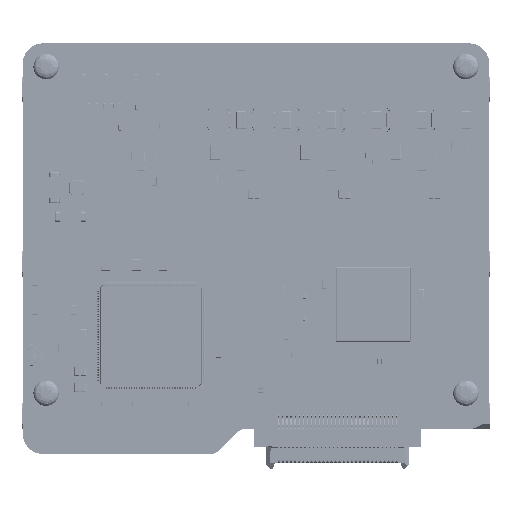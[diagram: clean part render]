
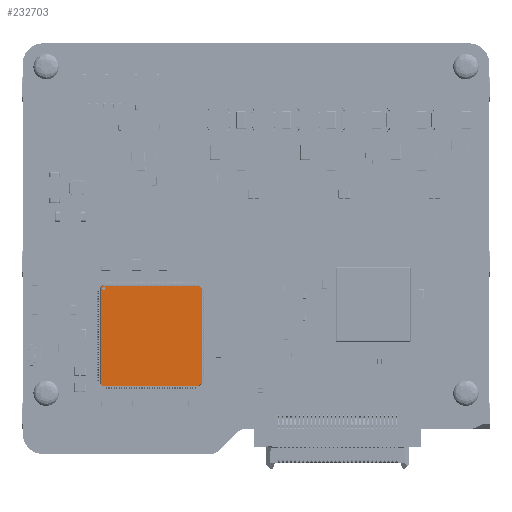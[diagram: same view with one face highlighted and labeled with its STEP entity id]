
A CAD part, top view. The second image highlights one B-rep face of the part: STEP entity #232703.
In plain terms, the highlighted planar face has unit normal (0, 0, 1).
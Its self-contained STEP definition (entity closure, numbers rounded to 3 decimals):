
#4077 = VERTEX_POINT ( 'NONE', #619305 ) ;
#10004 = CARTESIAN_POINT ( 'NONE',  ( 9.9, 0., 1.6 ) ) ;
#10186 = CARTESIAN_POINT ( 'NONE',  ( -9.9, 9.459, 1.6 ) ) ;
#14482 = LINE ( 'NONE', #457691, #216122 ) ;
#34026 = LINE ( 'NONE', #260884, #105973 ) ;
#37614 = CARTESIAN_POINT ( 'NONE',  ( 9.679, -9.679, 1.6 ) ) ;
#39298 = VECTOR ( 'NONE', #333867, 1000. ) ;
#41810 = ORIENTED_EDGE ( 'NONE', *, *, #510111, .F. ) ;
#51307 = DIRECTION ( 'NONE',  ( -0.707, -0.707, 0. ) ) ;
#52847 = VERTEX_POINT ( 'NONE', #10186 ) ;
#64019 = VERTEX_POINT ( 'NONE', #523484 ) ;
#79625 = VERTEX_POINT ( 'NONE', #374527 ) ;
#88196 = LINE ( 'NONE', #251957, #237417 ) ;
#90448 = EDGE_CURVE ( 'NONE', #719413, #297519, #568400, .T. ) ;
#103663 = ORIENTED_EDGE ( 'NONE', *, *, #177508, .F. ) ;
#105973 = VECTOR ( 'NONE', #432230, 1000. ) ;
#106829 = LINE ( 'NONE', #683680, #39298 ) ;
#125064 = VERTEX_POINT ( 'NONE', #429401 ) ;
#126863 = ORIENTED_EDGE ( 'NONE', *, *, #365867, .F. ) ;
#133793 = CIRCLE ( 'NONE', #431390, 0.3 ) ;
#146575 = CARTESIAN_POINT ( 'NONE',  ( 9.459, -9.9, 1.6 ) ) ;
#153484 = VECTOR ( 'NONE', #406652, 1000. ) ;
#168928 = EDGE_CURVE ( 'NONE', #207681, #125064, #409325, .T. ) ;
#175983 = LINE ( 'NONE', #637267, #153484 ) ;
#177508 = EDGE_CURVE ( 'NONE', #277795, #52847, #88196, .T. ) ;
#207681 = VERTEX_POINT ( 'NONE', #630648 ) ;
#216122 = VECTOR ( 'NONE', #241618, 1000. ) ;
#232703 = ADVANCED_FACE ( 'NONE', ( #702817, #416104 ), #363986, .T. ) ;
#233323 = EDGE_CURVE ( 'NONE', #125064, #207681, #133793, .T. ) ;
#237417 = VECTOR ( 'NONE', #598085, 1000. ) ;
#241618 = DIRECTION ( 'NONE',  ( -0.707, 0.707, 0. ) ) ;
#244450 = DIRECTION ( 'NONE',  ( 0., -1., 0. ) ) ;
#248684 = ORIENTED_EDGE ( 'NONE', *, *, #168928, .T. ) ;
#251957 = CARTESIAN_POINT ( 'NONE',  ( -9.9, 0., 1.6 ) ) ;
#260884 = CARTESIAN_POINT ( 'NONE',  ( 0., 9.9, 1.6 ) ) ;
#267167 = CARTESIAN_POINT ( 'NONE',  ( -9.3, 9.3, 1.6 ) ) ;
#274413 = DIRECTION ( 'NONE',  ( 0., 0., -1. ) ) ;
#277795 = VERTEX_POINT ( 'NONE', #283312 ) ;
#283312 = CARTESIAN_POINT ( 'NONE',  ( -9.9, -9.459, 1.6 ) ) ;
#297519 = VERTEX_POINT ( 'NONE', #146575 ) ;
#304035 = EDGE_CURVE ( 'NONE', #4077, #64019, #175983, .T. ) ;
#328143 = EDGE_LOOP ( 'NONE', ( #248684, #648715 ) ) ;
#333867 = DIRECTION ( 'NONE',  ( -1., 0., 0. ) ) ;
#345726 = ORIENTED_EDGE ( 'NONE', *, *, #90448, .F. ) ;
#360346 = DIRECTION ( 'NONE',  ( 0., 0., 1. ) ) ;
#363986 = PLANE ( 'NONE',  #634235 ) ;
#365867 = EDGE_CURVE ( 'NONE', #52847, #651418, #733353, .T. ) ;
#372249 = ORIENTED_EDGE ( 'NONE', *, *, #702789, .F. ) ;
#374527 = CARTESIAN_POINT ( 'NONE',  ( -9.459, -9.9, 1.6 ) ) ;
#387293 = EDGE_CURVE ( 'NONE', #651418, #4077, #34026, .T. ) ;
#406652 = DIRECTION ( 'NONE',  ( 0.707, -0.707, 0. ) ) ;
#409109 = ORIENTED_EDGE ( 'NONE', *, *, #304035, .F. ) ;
#409325 = CIRCLE ( 'NONE', #563340, 0.3 ) ;
#416104 = FACE_BOUND ( 'NONE', #328143, .T. ) ;
#418743 = VECTOR ( 'NONE', #625040, 1000. ) ;
#429401 = CARTESIAN_POINT ( 'NONE',  ( -9.6, 9.3, 1.6 ) ) ;
#431390 = AXIS2_PLACEMENT_3D ( 'NONE', #678104, #734098, #723150 ) ;
#432230 = DIRECTION ( 'NONE',  ( 1., 0., 0. ) ) ;
#457691 = CARTESIAN_POINT ( 'NONE',  ( -9.679, -9.679, 1.6 ) ) ;
#465367 = EDGE_LOOP ( 'NONE', ( #372249, #409109, #653935, #126863, #103663, #41810, #579045, #345726 ) ) ;
#510111 = EDGE_CURVE ( 'NONE', #79625, #277795, #14482, .T. ) ;
#516960 = CARTESIAN_POINT ( 'NONE',  ( -9.679, 9.679, 1.6 ) ) ;
#520932 = VECTOR ( 'NONE', #51307, 1000. ) ;
#523484 = CARTESIAN_POINT ( 'NONE',  ( 9.9, 9.459, 1.6 ) ) ;
#534770 = EDGE_CURVE ( 'NONE', #297519, #79625, #106829, .T. ) ;
#535517 = CARTESIAN_POINT ( 'NONE',  ( 9.9, -9.459, 1.6 ) ) ;
#563340 = AXIS2_PLACEMENT_3D ( 'NONE', #267167, #274413, #609561 ) ;
#568400 = LINE ( 'NONE', #37614, #520932 ) ;
#575802 = LINE ( 'NONE', #10004, #633850 ) ;
#579045 = ORIENTED_EDGE ( 'NONE', *, *, #534770, .F. ) ;
#587256 = CARTESIAN_POINT ( 'NONE',  ( 0., 0., 1.6 ) ) ;
#590984 = DIRECTION ( 'NONE',  ( 1., 0., 0. ) ) ;
#598085 = DIRECTION ( 'NONE',  ( 0., 1., 0. ) ) ;
#609561 = DIRECTION ( 'NONE',  ( 1., 0., 0. ) ) ;
#619305 = CARTESIAN_POINT ( 'NONE',  ( 9.459, 9.9, 1.6 ) ) ;
#625040 = DIRECTION ( 'NONE',  ( 0.707, 0.707, 0. ) ) ;
#630648 = CARTESIAN_POINT ( 'NONE',  ( -9., 9.3, 1.6 ) ) ;
#633850 = VECTOR ( 'NONE', #244450, 1000. ) ;
#634235 = AXIS2_PLACEMENT_3D ( 'NONE', #587256, #360346, #590984 ) ;
#637267 = CARTESIAN_POINT ( 'NONE',  ( 9.679, 9.679, 1.6 ) ) ;
#648715 = ORIENTED_EDGE ( 'NONE', *, *, #233323, .T. ) ;
#651418 = VERTEX_POINT ( 'NONE', #673669 ) ;
#653935 = ORIENTED_EDGE ( 'NONE', *, *, #387293, .F. ) ;
#673669 = CARTESIAN_POINT ( 'NONE',  ( -9.459, 9.9, 1.6 ) ) ;
#678104 = CARTESIAN_POINT ( 'NONE',  ( -9.3, 9.3, 1.6 ) ) ;
#683680 = CARTESIAN_POINT ( 'NONE',  ( 0., -9.9, 1.6 ) ) ;
#702789 = EDGE_CURVE ( 'NONE', #64019, #719413, #575802, .T. ) ;
#702817 = FACE_OUTER_BOUND ( 'NONE', #465367, .T. ) ;
#719413 = VERTEX_POINT ( 'NONE', #535517 ) ;
#723150 = DIRECTION ( 'NONE',  ( 1., 0., 0. ) ) ;
#733353 = LINE ( 'NONE', #516960, #418743 ) ;
#734098 = DIRECTION ( 'NONE',  ( 0., 0., -1. ) ) ;
